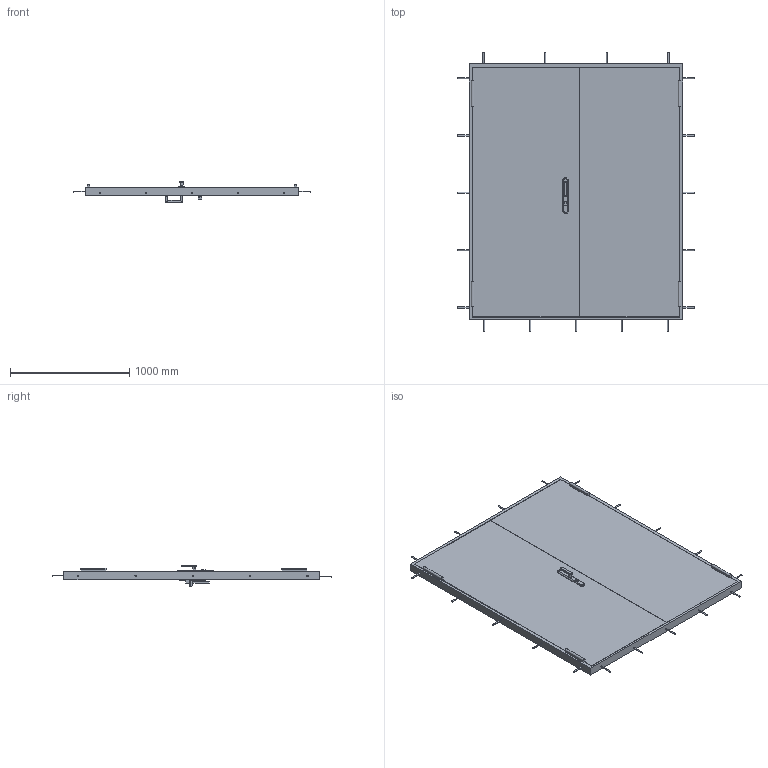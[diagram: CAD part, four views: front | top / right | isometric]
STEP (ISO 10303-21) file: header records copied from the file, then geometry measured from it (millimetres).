
FILE_DESCRIPTION((''),'2;1');
FILE_NAME('51797893','2022-03-17T12:05:30',('ka'),('HUBER SE'),'CREO PARAMETRIC BY PTC INC, 2021304','CREO PARAMETRIC BY PTC INC, 2021304','');
FILE_SCHEMA(('AUTOMOTIVE_DESIGN { 1 0 10303 214 1 1 1 1 }'));
Length unit declared in the file: millimetre
Products named in the file (1): 51797893
Bounding box: 1990 x 2347 x 181.5 mm (x, y, z)
Volume: 220990758.5 mm3; surface area: 9012314.2 mm2
Topology: 1 solids, 1 shells, 177 faces, 430 edges, 276 vertices
Faces by surface type: plane 101, cylinder 68, torus 8
Entity records: 7018 total; most frequent: CARTESIAN_POINT 1169, DIRECTION 908, ORIENTED_EDGE 860, EDGE_CURVE 430, AXIS2_PLACEMENT_3D 313, VECTOR 282, LINE 282, VERTEX_POINT 276
